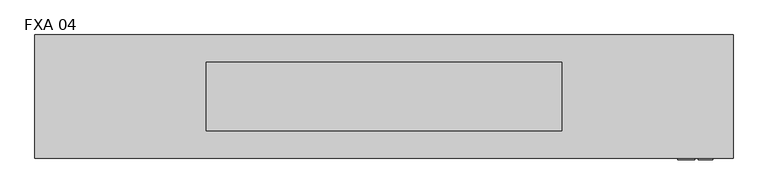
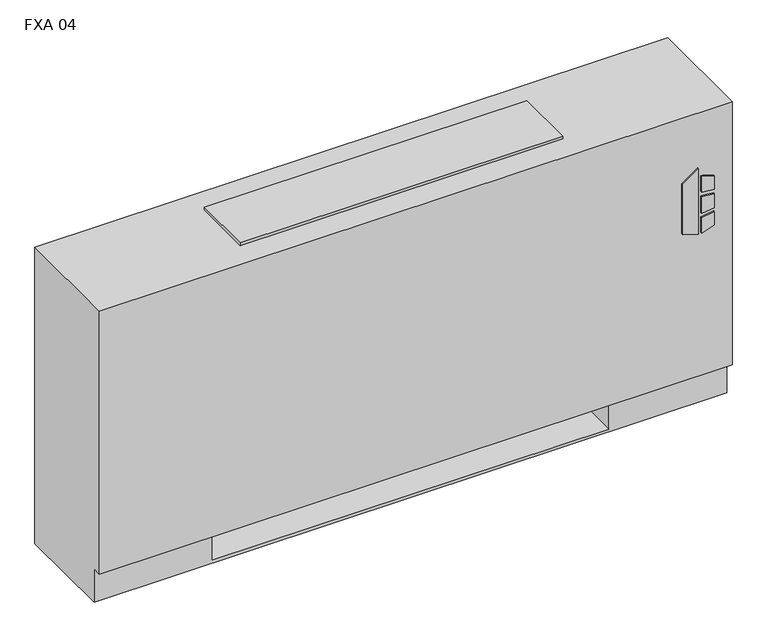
"""IFC4 building model written with IfcOpenShell, lengths in millimetres: proxy geometry, Vertical_Fan_Coil_Unit_-_FXA_-_IEC_-_2-Pipe_TS-FR_RH_2022 : FXA 04."""

from ifc_helpers import new_model, si_unit, point, frame, frame_2d, origin, place, context, project, spatial, polyline, circle_curve, trimmed, segment, composite_curve, outline, extrude, source, transform, mapped, element, save
from ifc_brep_helpers import plane_surface, revolved_surface, advanced_brep


def fxa_04_52fef28c(model_context):
    return source(origin(), model_context, "Body", "SolidModel", [
        extrude(outline(polyline([(391.6086829, 696.9868862), (381.6606126, 729.1602728), (523.831537, 729.1602728), (500.8095309, 696.9868862), (391.6086829, 696.9868862)])), frame((0.0, 12.7, 0.0), z_axis=(0.0, 1.0, 0.0), x_axis=(0.0, 0.0, 1.0)), (0.0, 0.0, 1.0), 3.175),
        extrude(outline(polyline([(470.6079683, 735.9186058), (467.4055757, 762.0), (496.6344168, 762.0), (504.6988318, 735.9186058), (470.6079683, 735.9186058)])), frame((0.0, 12.7, 0.0), z_axis=(0.0, 1.0, 0.0), x_axis=(0.0, 0.0, 1.0)), (0.0, 0.0, 1.0), 3.175),
        extrude(outline(polyline([(418.7444414, 762.0), (415.0789404, 735.9186058), (381.6606126, 735.9186058), (390.2948498, 762.0), (418.7444414, 762.0)])), frame((0.0, 12.7, 0.0), z_axis=(0.0, 1.0, 0.0), x_axis=(0.0, 0.0, 1.0)), (0.0, 0.0, 1.0), 3.175),
        extrude(outline(polyline([(458.0596028, 762.0), (460.3414292, 735.9186058), (424.4038806, 735.9186058), (427.1451456, 762.0), (458.0596028, 762.0)])), frame((0.0, 12.7, 0.0), z_axis=(0.0, 1.0, 0.0), x_axis=(0.0, 0.0, 1.0)), (0.0, 0.0, 1.0), 3.175),
        extrude(outline(polyline([(-374.65, 81.534), (-374.65, 223.266), (-254.0, 223.266), (-254.0, 81.534), (-374.65, 81.534)])), frame((0.0, 0.0, 327.025), z_axis=(0.0, 0.0, 1.0), x_axis=(1.0, 0.0, 0.0)), (0.0, 0.0, 1.0), 260.35),
        extrude(outline(composite_curve([segment(trimmed(circle_curve(frame_2d((622.3, 130.175)), 9.525), [point((612.775, 130.175))], [point((631.825, 130.175))], False, "CARTESIAN"), True, "CONTINUOUS"), segment(trimmed(circle_curve(frame_2d((622.3, 130.175)), 9.525), [point((631.825, 130.175))], [point((612.775, 130.175))], False, "CARTESIAN"), True, "CONTINUOUS")], self_intersect=False)), frame((0.0, 0.0, 101.6), z_axis=(0.0, 0.0, 1.0), x_axis=(1.0, 0.0, 0.0)), (0.0, 0.0, 1.0), 25.4),
        extrude(outline(polyline([(717.55, 196.85), (717.55, 63.5), (558.8, 63.5), (558.8, 196.85), (717.55, 196.85)])), frame((0.0, 0.0, 127.0), z_axis=(0.0, 0.0, 1.0), x_axis=(1.0, 0.0, 0.0)), (0.0, 0.0, 1.0), 50.8),
        extrude(outline(composite_curve([segment(trimmed(circle_curve(frame_2d((93.1926, 485.5972)), 7.9375), [point((93.1926, 493.5347))], [point((93.1926, 477.6597))], False, "CARTESIAN"), True, "CONTINUOUS"), segment(trimmed(circle_curve(frame_2d((93.1926, 485.5972)), 7.9375), [point((93.1926, 477.6597))], [point((93.1926, 493.5347))], False, "CARTESIAN"), True, "CONTINUOUS")], self_intersect=False)), frame((558.8, 0.0, 0.0), z_axis=(1.0, 0.0, 0.0), x_axis=(0.0, 1.0, 0.0)), (0.0, 0.0, 1.0), 50.8),
        extrude(outline(composite_curve([segment(trimmed(circle_curve(frame_2d((141.3002, 458.9526)), 7.9375), [point((141.3002, 466.8901))], [point((141.3002, 451.0151))], False, "CARTESIAN"), True, "CONTINUOUS"), segment(trimmed(circle_curve(frame_2d((141.3002, 458.9526)), 7.9375), [point((141.3002, 451.0151))], [point((141.3002, 466.8901))], False, "CARTESIAN"), True, "CONTINUOUS")], self_intersect=False)), frame((558.8, 0.0, 0.0), z_axis=(1.0, 0.0, 0.0), x_axis=(0.0, 1.0, 0.0)), (0.0, 0.0, 1.0), 50.8),
        advanced_brep(
        [(800.1, 244.475, 641.35), (-495.3, 244.475, 641.35), (-495.3, 15.875, 641.35), (800.1, 15.875, 641.35), (-495.3, 244.475, 0.0), (800.1, 244.475, 0.0), (800.1, 34.925, 0.0), (-495.3, 34.925, 0.0), (558.8, 244.475, 73.025), (787.4, 244.475, 73.025), (787.4, 244.475, 628.65), (558.8, 244.475, 628.65), (558.8, 244.475, 414.8650565), (587.375, 244.475, 414.8650565), (587.375, 244.475, 385.2349435), (558.8, 244.475, 385.2349435), (558.8, 244.475, 287.3375), (587.375, 244.475, 287.3375), (587.375, 244.475, 258.7625), (558.8, 244.475, 258.7625), (558.8, 244.475, 141.2875), (587.375, 244.475, 141.2875), (587.375, 244.475, 112.7125), (558.8, 244.475, 112.7125), (-254.0, 244.475, 628.65), (-482.6, 244.475, 628.65), (-482.6, 244.475, 73.025), (-254.0, 244.475, 73.025), (-254.0, 244.475, 112.7125), (-282.575, 244.475, 112.7125), (-282.575, 244.475, 141.2875), (-254.0, 244.475, 141.2875), (-254.0, 244.475, 258.7625), (-282.575, 244.475, 258.7625), (-282.575, 244.475, 287.3375), (-254.0, 244.475, 287.3375), (-254.0, 244.475, 385.2349435), (-282.575, 244.475, 385.2349435), (-282.575, 244.475, 414.8650565), (-254.0, 244.475, 414.8650565), (577.0626, 244.475, 127.0), (565.9374, 244.475, 127.0), (577.0626, 244.475, 400.05), (565.9374, 244.475, 400.05), (577.0626, 244.475, 273.05), (565.9374, 244.475, 273.05), (-261.1374, 244.475, 127.0), (-272.2626, 244.475, 127.0), (-261.1374, 244.475, 273.05), (-272.2626, 244.475, 273.05), (-261.1374, 244.475, 400.05), (-272.2626, 244.475, 400.05), (-495.3, 34.925, 73.025), (-495.3, 15.875, 73.025), (800.1, 15.875, 73.025), (800.1, 34.925, 73.025), (-254.0, 34.925, 73.025), (-254.0, 219.075, 73.025), (558.8, 219.075, 73.025), (558.8, 34.925, 73.025), (558.8, 34.925, 6.35), (-254.0, 34.925, 6.35), (558.8, 41.275, 628.65), (787.4, 41.275, 628.65), (787.4, 41.275, 73.025), (558.8, 41.275, 73.025), (-254.0, 41.275, 628.65), (-254.0, 41.275, 73.025), (-482.6, 41.275, 73.025), (-482.6, 41.275, 628.65), (558.8, 219.075, 73.025), (558.8, 238.125, 112.7125), (558.8, 238.125, 141.2875), (558.8, 238.125, 258.7625), (558.8, 238.125, 287.3375), (558.8, 238.125, 385.2349435), (558.8, 238.125, 414.8650565), (-254.0, 219.075, 73.025), (-254.0, 238.125, 414.8650565), (-254.0, 238.125, 385.2349435), (-254.0, 238.125, 287.3375), (-254.0, 238.125, 258.7625), (-254.0, 238.125, 141.2875), (-254.0, 238.125, 112.7125), (-254.0, 219.075, 6.35), (558.8, 219.075, 6.35), (587.375, 238.125, 112.7125), (587.375, 238.125, 141.2875), (565.9374, 238.125, 127.0), (577.0626, 238.125, 127.0), (587.375, 238.125, 258.7625), (587.375, 238.125, 287.3375), (565.9374, 238.125, 273.05), (577.0626, 238.125, 273.05), (587.375, 238.125, 385.2349435), (587.375, 238.125, 414.8650565), (565.9374, 238.125, 400.05), (577.0626, 238.125, 400.05), (-282.575, 238.125, 141.2875), (-282.575, 238.125, 112.7125), (-272.2626, 238.125, 127.0), (-261.1374, 238.125, 127.0), (-282.575, 238.125, 287.3375), (-282.575, 238.125, 258.7625), (-272.2626, 238.125, 273.05), (-261.1374, 238.125, 273.05), (-282.575, 238.125, 414.8650565), (-282.575, 238.125, 385.2349435), (-272.2626, 238.125, 400.05), (-261.1374, 238.125, 400.05)],
        [
            (0, 1),
            (1, 2),
            (2, 3),
            (3, 0),
            (4, 5),
            (5, 6),
            (6, 7),
            (7, 4),
            (0, 5),
            (4, 1),
            (8, 9),
            (9, 10),
            (10, 11),
            (11, 12),
            (12, 13),
            (13, 14),
            (14, 15),
            (15, 16),
            (16, 17),
            (17, 18),
            (18, 19),
            (19, 20),
            (20, 21),
            (21, 22),
            (22, 23),
            (23, 8),
            (24, 25),
            (25, 26),
            (26, 27),
            (27, 28),
            (28, 29),
            (29, 30),
            (30, 31),
            (31, 32),
            (32, 33),
            (33, 34),
            (34, 35),
            (35, 36),
            (36, 37),
            (37, 38),
            (38, 39),
            (39, 24),
            (40, 41, circle_curve(frame((571.5, 244.475, 127.0), z_axis=(0.0, -1.0, 0.0), x_axis=(-1.0, 0.0, 0.0)), 5.5626)),
            (41, 40, circle_curve(frame((571.5, 244.475, 127.0), z_axis=(0.0, -1.0, 0.0), x_axis=(-1.0, 0.0, 0.0)), 5.5626)),
            (42, 43, circle_curve(frame((571.5, 244.475, 400.05), z_axis=(0.0, -1.0, 0.0), x_axis=(-1.0, 0.0, 0.0)), 5.5626)),
            (43, 42, circle_curve(frame((571.5, 244.475, 400.05), z_axis=(0.0, -1.0, 0.0), x_axis=(-1.0, 0.0, 0.0)), 5.5626)),
            (44, 45, circle_curve(frame((571.5, 244.475, 273.05), z_axis=(0.0, -1.0, 0.0), x_axis=(-1.0, 0.0, 0.0)), 5.5626)),
            (45, 44, circle_curve(frame((571.5, 244.475, 273.05), z_axis=(0.0, -1.0, 0.0), x_axis=(-1.0, 0.0, 0.0)), 5.5626)),
            (46, 47, circle_curve(frame((-266.7, 244.475, 127.0), z_axis=(0.0, -1.0, 0.0), x_axis=(-1.0, 0.0, 0.0)), 5.5626)),
            (47, 46, circle_curve(frame((-266.7, 244.475, 127.0), z_axis=(0.0, -1.0, 0.0), x_axis=(-1.0, 0.0, 0.0)), 5.5626)),
            (48, 49, circle_curve(frame((-266.7, 244.475, 273.05), z_axis=(0.0, -1.0, 0.0), x_axis=(-1.0, 0.0, 0.0)), 5.5626)),
            (49, 48, circle_curve(frame((-266.7, 244.475, 273.05), z_axis=(0.0, -1.0, 0.0), x_axis=(-1.0, 0.0, 0.0)), 5.5626)),
            (50, 51, circle_curve(frame((-266.7, 244.475, 400.05), z_axis=(0.0, -1.0, 0.0), x_axis=(-1.0, 0.0, 0.0)), 5.5626)),
            (51, 50, circle_curve(frame((-266.7, 244.475, 400.05), z_axis=(0.0, -1.0, 0.0), x_axis=(-1.0, 0.0, 0.0)), 5.5626)),
            (7, 52),
            (52, 53),
            (53, 2),
            (53, 54),
            (54, 3),
            (54, 55),
            (55, 6),
            (52, 56),
            (56, 57),
            (57, 58),
            (58, 59),
            (59, 55),
            (59, 60),
            (60, 61),
            (61, 56),
            (62, 63),
            (63, 64),
            (64, 65),
            (65, 62),
            (66, 67),
            (67, 68),
            (68, 69),
            (69, 66),
            (65, 70),
            (70, 8),
            (23, 71),
            (71, 72),
            (72, 20),
            (19, 73),
            (73, 74),
            (74, 16),
            (15, 75),
            (75, 76),
            (76, 12),
            (11, 62),
            (64, 9),
            (63, 10),
            (69, 25),
            (24, 66),
            (68, 26),
            (67, 77),
            (77, 27),
            (39, 78),
            (78, 79),
            (79, 36),
            (35, 80),
            (80, 81),
            (81, 32),
            (31, 82),
            (82, 83),
            (83, 28),
            (57, 84),
            (84, 85),
            (85, 58),
            (85, 60),
            (84, 61),
            (71, 86),
            (86, 87),
            (87, 72),
            (88, 89, circle_curve(frame((571.5, 238.125, 127.0), z_axis=(0.0, 1.0, 0.0), x_axis=(-1.0, 0.0, 0.0)), 5.5626)),
            (89, 88, circle_curve(frame((571.5, 238.125, 127.0), z_axis=(0.0, 1.0, 0.0), x_axis=(-1.0, 0.0, 0.0)), 5.5626)),
            (73, 90),
            (90, 91),
            (91, 74),
            (92, 93, circle_curve(frame((571.5, 238.125, 273.05), z_axis=(0.0, 1.0, 0.0), x_axis=(-1.0, 0.0, 0.0)), 5.5626)),
            (93, 92, circle_curve(frame((571.5, 238.125, 273.05), z_axis=(0.0, 1.0, 0.0), x_axis=(-1.0, 0.0, 0.0)), 5.5626)),
            (75, 94),
            (94, 95),
            (95, 76),
            (96, 97, circle_curve(frame((571.5, 238.125, 400.05), z_axis=(0.0, 1.0, 0.0), x_axis=(-1.0, 0.0, 0.0)), 5.5626)),
            (97, 96, circle_curve(frame((571.5, 238.125, 400.05), z_axis=(0.0, 1.0, 0.0), x_axis=(-1.0, 0.0, 0.0)), 5.5626)),
            (98, 99),
            (99, 83),
            (82, 98),
            (100, 101, circle_curve(frame((-266.7, 238.125, 127.0), z_axis=(0.0, 1.0, 0.0), x_axis=(-1.0, 0.0, 0.0)), 5.5626)),
            (101, 100, circle_curve(frame((-266.7, 238.125, 127.0), z_axis=(0.0, 1.0, 0.0), x_axis=(-1.0, 0.0, 0.0)), 5.5626)),
            (102, 103),
            (103, 81),
            (80, 102),
            (104, 105, circle_curve(frame((-266.7, 238.125, 273.05), z_axis=(0.0, 1.0, 0.0), x_axis=(-1.0, 0.0, 0.0)), 5.5626)),
            (105, 104, circle_curve(frame((-266.7, 238.125, 273.05), z_axis=(0.0, 1.0, 0.0), x_axis=(-1.0, 0.0, 0.0)), 5.5626)),
            (106, 107),
            (107, 79),
            (78, 106),
            (108, 109, circle_curve(frame((-266.7, 238.125, 400.05), z_axis=(0.0, 1.0, 0.0), x_axis=(-1.0, 0.0, 0.0)), 5.5626)),
            (109, 108, circle_curve(frame((-266.7, 238.125, 400.05), z_axis=(0.0, 1.0, 0.0), x_axis=(-1.0, 0.0, 0.0)), 5.5626)),
            (87, 21),
            (86, 22),
            (91, 17),
            (90, 18),
            (95, 13),
            (94, 14),
            (30, 98),
            (99, 29),
            (34, 102),
            (103, 33),
            (38, 106),
            (107, 37),
            (88, 41),
            (40, 89),
            (96, 43),
            (42, 97),
            (92, 45),
            (44, 93),
            (100, 47),
            (46, 101),
            (104, 49),
            (48, 105),
            (108, 51),
            (50, 109),
        ],
        [
            plane_surface(frame((-495.3, 244.475, 641.35), z_axis=(0.0, 0.0, 1.0), x_axis=(-1.0, 0.0, 0.0))),
            plane_surface(frame((-495.3, 244.475, 0.0), z_axis=(0.0, 0.0, -1.0), x_axis=(1.0, 0.0, 0.0))),
            plane_surface(frame((800.1, 244.475, 641.35), z_axis=(0.0, 1.0, 0.0), x_axis=(0.0, 0.0, -1.0))),
            plane_surface(frame((-495.3, 244.475, 641.35), z_axis=(-1.0, 0.0, 0.0), x_axis=(0.0, 0.0, -1.0))),
            plane_surface(frame((-495.3, 15.875, 641.35), z_axis=(0.0, -1.0, 0.0), x_axis=(0.0, 0.0, -1.0))),
            plane_surface(frame((800.1, 15.875, 641.35), z_axis=(1.0, 0.0, 0.0), x_axis=(0.0, 0.0, -1.0))),
            plane_surface(frame((-495.3, 15.875, 73.025), z_axis=(0.0, 0.0, -1.0), x_axis=(1.0, 0.0, 0.0))),
            plane_surface(frame((-495.3, 34.925, 73.025), z_axis=(0.0, -1.0, 0.0), x_axis=(1.0, 0.0, 0.0))),
            plane_surface(frame((558.8, 41.275, 628.65), z_axis=(0.0, 1.0, 0.0), x_axis=(0.0, 0.0, -1.0))),
            plane_surface(frame((558.8, 41.275, 628.65), z_axis=(1.0, 0.0, 0.0), x_axis=(0.0, 1.0, 0.0))),
            plane_surface(frame((558.8, 41.275, 73.025), z_axis=(0.0, 0.0, 1.0), x_axis=(0.0, 1.0, 0.0))),
            plane_surface(frame((787.4, 41.275, 73.025), z_axis=(-1.0, 0.0, 0.0), x_axis=(0.0, 1.0, 0.0))),
            plane_surface(frame((787.4, 41.275, 628.65), z_axis=(0.0, 0.0, -1.0), x_axis=(0.0, 1.0, 0.0))),
            plane_surface(frame((-254.0, 41.275, 628.65), z_axis=(0.0, 0.0, -1.0), x_axis=(0.0, 1.0, 0.0))),
            plane_surface(frame((-482.6, 41.275, 628.65), z_axis=(1.0, 0.0, 0.0), x_axis=(0.0, 1.0, 0.0))),
            plane_surface(frame((-482.6, 41.275, 73.025), z_axis=(0.0, 0.0, 1.0), x_axis=(0.0, 1.0, 0.0))),
            plane_surface(frame((-254.0, 41.275, 73.025), z_axis=(-1.0, 0.0, 0.0), x_axis=(0.0, 1.0, 0.0))),
            plane_surface(frame((558.8, 219.075, 73.025), z_axis=(0.0, -1.0, 0.0), x_axis=(0.0, 0.0, -1.0))),
            plane_surface(frame((558.8, 219.075, 73.025), z_axis=(-1.0, 0.0, 0.0), x_axis=(0.0, -1.0, 0.0))),
            plane_surface(frame((558.8, 219.075, 6.35), z_axis=(0.0, 0.0, 1.0), x_axis=(0.0, -1.0, 0.0))),
            plane_surface(frame((-254.0, 219.075, 6.35), z_axis=(1.0, 0.0, 0.0), x_axis=(0.0, -1.0, 0.0))),
            plane_surface(frame((587.375, 238.125, 141.2875), z_axis=(0.0, -1.0, 0.0), x_axis=(-1.0, 0.0, 0.0))),
            plane_surface(frame((558.8, 244.475, 141.2875), z_axis=(0.0, 0.0, 1.0), x_axis=(0.0, -1.0, 0.0))),
            plane_surface(frame((587.375, 244.475, 141.2875), z_axis=(1.0, 0.0, 0.0), x_axis=(0.0, -1.0, 0.0))),
            plane_surface(frame((587.375, 244.475, 112.7125), z_axis=(0.0, 0.0, -1.0), x_axis=(0.0, -1.0, 0.0))),
            plane_surface(frame((558.8, 244.475, 287.3375), z_axis=(0.0, 0.0, 1.0), x_axis=(0.0, -1.0, 0.0))),
            plane_surface(frame((587.375, 244.475, 287.3375), z_axis=(1.0, 0.0, 0.0), x_axis=(0.0, -1.0, 0.0))),
            plane_surface(frame((587.375, 244.475, 258.7625), z_axis=(0.0, 0.0, -1.0), x_axis=(0.0, -1.0, 0.0))),
            plane_surface(frame((558.8, 244.475, 414.8650565), z_axis=(0.0, 0.0, 1.0), x_axis=(0.0, -1.0, 0.0))),
            plane_surface(frame((587.375, 244.475, 414.8650565), z_axis=(1.0, 0.0, 0.0), x_axis=(0.0, -1.0, 0.0))),
            plane_surface(frame((587.375, 244.475, 385.2349435), z_axis=(0.0, 0.0, -1.0), x_axis=(0.0, -1.0, 0.0))),
            plane_surface(frame((-282.575, 244.475, 141.2875), z_axis=(0.0, 0.0, 1.0), x_axis=(0.0, -1.0, 0.0))),
            plane_surface(frame((-254.0, 244.475, 112.7125), z_axis=(0.0, 0.0, -1.0), x_axis=(0.0, -1.0, 0.0))),
            plane_surface(frame((-282.575, 244.475, 112.7125), z_axis=(-1.0, 0.0, 0.0), x_axis=(0.0, -1.0, 0.0))),
            plane_surface(frame((-282.575, 244.475, 287.3375), z_axis=(0.0, 0.0, 1.0), x_axis=(0.0, -1.0, 0.0))),
            plane_surface(frame((-254.0, 244.475, 258.7625), z_axis=(0.0, 0.0, -1.0), x_axis=(0.0, -1.0, 0.0))),
            plane_surface(frame((-282.575, 244.475, 258.7625), z_axis=(-1.0, 0.0, 0.0), x_axis=(0.0, -1.0, 0.0))),
            plane_surface(frame((-282.575, 244.475, 414.8650565), z_axis=(0.0, 0.0, 1.0), x_axis=(0.0, -1.0, 0.0))),
            plane_surface(frame((-254.0, 244.475, 385.2349435), z_axis=(0.0, 0.0, -1.0), x_axis=(0.0, -1.0, 0.0))),
            plane_surface(frame((-282.575, 244.475, 385.2349435), z_axis=(-1.0, 0.0, 0.0), x_axis=(0.0, -1.0, 0.0))),
            revolved_surface(polyline([(565.9374, 238.125, 127.0), (565.9374, 244.475, 127.0)]), (571.5, 244.475, 127.0), (0.0, -1.0, 0.0)),
            revolved_surface(polyline([(565.9374, 238.125, 400.05), (565.9374, 244.475, 400.05)]), (571.5, 244.475, 400.05), (0.0, -1.0, 0.0)),
            revolved_surface(polyline([(565.9374, 238.125, 273.05), (565.9374, 244.475, 273.05)]), (571.5, 244.475, 273.05), (0.0, -1.0, 0.0)),
            revolved_surface(polyline([(-272.26259999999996, 238.125, 127.0), (-272.26259999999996, 244.475, 127.0)]), (-266.7, 244.475, 127.0), (0.0, -1.0, 0.0)),
            revolved_surface(polyline([(-272.26259999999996, 238.125, 273.05), (-272.26259999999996, 244.475, 273.05)]), (-266.7, 244.475, 273.05), (0.0, -1.0, 0.0)),
            revolved_surface(polyline([(-272.26259999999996, 238.125, 400.05), (-272.26259999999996, 244.475, 400.05)]), (-266.7, 244.475, 400.05), (0.0, -1.0, 0.0)),
        ],
        [
            (0, [[1, 2, 3, 4]]),
            (1, [[5, 6, 7, 8]]),
            (2, [[-1, 9, -5, 10], [11, 12, 13, 14, 15, 16, 17, 18, 19, 20, 21, 22, 23, 24, 25, 26], [27, 28, 29, 30, 31, 32, 33, 34, 35, 36, 37, 38, 39, 40, 41, 42], [43, 44], [45, 46], [47, 48], [49, 50], [51, 52], [53, 54]]),
            (3, [[-2, -10, -8, 55, 56, 57]]),
            (4, [[-3, -57, 58, 59]]),
            (5, [[-4, -59, 60, 61, -6, -9]]),
            (6, [[-56, 62, 63, 64, 65, 66, -60, -58]]),
            (7, [[-7, -61, -66, 67, 68, 69, -62, -55]]),
            (8, [[70, 71, 72, 73]]),
            (8, [[74, 75, 76, 77]]),
            (9, [[-73, 78, 79, -26, 80, 81, 82, -22, 83, 84, 85, -18, 86, 87, 88, -14, 89]]),
            (10, [[-72, 90, -11, -79, -78]]),
            (11, [[-71, 91, -12, -90]]),
            (12, [[-70, -89, -13, -91]]),
            (13, [[-77, 92, -27, 93]]),
            (14, [[-76, 94, -28, -92]]),
            (15, [[-75, 95, 96, -29, -94]]),
            (16, [[-74, -93, -42, 97, 98, 99, -38, 100, 101, 102, -34, 103, 104, 105, -30, -96, -95]]),
            (17, [[-64, 106, 107, 108]]),
            (18, [[-108, 109, -67, -65]]),
            (19, [[-107, 110, -68, -109]]),
            (20, [[-106, -63, -69, -110]]),
            (21, [[111, 112, 113, -81], [114, 115]]),
            (21, [[116, 117, 118, -84], [119, 120]]),
            (21, [[121, 122, 123, -87], [124, 125]]),
            (21, [[126, 127, -104, 128], [129, 130]]),
            (21, [[131, 132, -101, 133], [134, 135]]),
            (21, [[136, 137, -98, 138], [139, 140]]),
            (22, [[-113, 141, -23, -82]]),
            (23, [[-112, 142, -24, -141]]),
            (24, [[-111, -80, -25, -142]]),
            (25, [[-118, 143, -19, -85]]),
            (26, [[-117, 144, -20, -143]]),
            (27, [[-116, -83, -21, -144]]),
            (28, [[-123, 145, -15, -88]]),
            (29, [[-122, 146, -16, -145]]),
            (30, [[-121, -86, -17, -146]]),
            (31, [[-128, -103, -33, 147]]),
            (32, [[-127, 148, -31, -105]]),
            (33, [[-126, -147, -32, -148]]),
            (34, [[-133, -100, -37, 149]]),
            (35, [[-132, 150, -35, -102]]),
            (36, [[-131, -149, -36, -150]]),
            (37, [[-138, -97, -41, 151]]),
            (38, [[-137, 152, -39, -99]]),
            (39, [[-136, -151, -40, -152]]),
            (40, [[153, -43, 154, -114]]),
            (40, [[-153, -115, -154, -44]]),
            (41, [[155, -45, 156, -124]]),
            (41, [[-155, -125, -156, -46]]),
            (42, [[157, -47, 158, -119]]),
            (42, [[-157, -120, -158, -48]]),
            (43, [[159, -49, 160, -129]]),
            (43, [[-159, -130, -160, -50]]),
            (44, [[161, -51, 162, -134]]),
            (44, [[-161, -135, -162, -52]]),
            (45, [[163, -53, 164, -139]]),
            (45, [[-163, -140, -164, -54]]),
        ],
    ),
        extrude(outline(polyline([(482.6, 193.675), (482.6, 66.675), (-177.8, 66.675), (-177.8, 193.675), (482.6, 193.675)])), frame((0.0, 0.0, 641.35), z_axis=(0.0, 0.0, 1.0), x_axis=(1.0, 0.0, 0.0)), (0.0, 0.0, 1.0), 6.35),
    ])


if __name__ == "__main__":
    model = new_model("IFC4")
    model_context = context("Model", 3, world=origin())
    ifc_project = project(units=[si_unit("LENGTHUNIT", "METRE", prefix="MILLI")], contexts=[model_context])
    site = spatial("IfcSite", under=ifc_project)
    building = spatial("IfcBuilding", under=site)
    placement = place(None, origin())
    fxa_04_shape = fxa_04_52fef28c(model_context)
    element("IfcBuildingElementProxy", 1, Name="Vertical_Fan_Coil_Unit_-_FXA_-_IEC_-_2-Pipe_TS-FR_RH_2022 : FXA 04", ObjectType="Vertical_Fan_Coil_Unit_-_FXA_-_IEC_-_2-Pipe_TS-FR_RH_2022 : FXA 04", at=placement, inside=building, context=model_context, shape_type="MappedRepresentation", body=[
        mapped(fxa_04_shape, transform((0.0, 0.0, 0.0), x_axis=(1.0, 0.0, 0.0), y_axis=(0.0, 1.0, 0.0), z_axis=(0.0, 0.0, 1.0))),
    ])
    save(model, "model.ifc")
